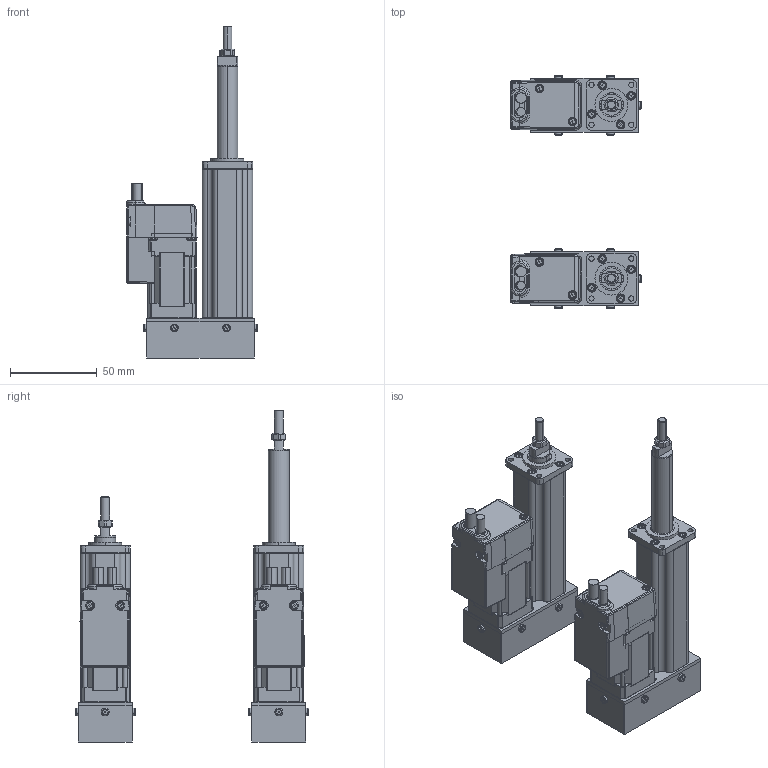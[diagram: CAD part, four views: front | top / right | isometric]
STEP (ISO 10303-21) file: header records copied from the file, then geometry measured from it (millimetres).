
FILE_DESCRIPTION(('FreeCAD Model'),'2;1');
FILE_NAME('Open CASCADE Shape Model','2023-11-27T16:23:04',('Author'),( ''),'Open CASCADE STEP processor 7.5','FreeCAD','Unknown');
FILE_SCHEMA(('AUTOMOTIVE_DESIGN { 1 0 10303 214 1 1 1 1 }'));
Length unit declared in the file: millimetre
Products named in the file (91): Unnamed; 1; 1001; 2; 3; 1002; 10; 14; 6; 19; 15; 1003; 3001; 16; 12; 2001; 5; 11; 13; 9; 20; 21; 17; 18; 11001; 11002; 11003; 11004; 11005; 11006; 11007; 4; 11008; 11009; 11010; 5001; 6001; 11011; 11012; 11013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
Assembly tree (90 placements, depth 2):
  Unnamed
    1
    1001
    2
    3
    1002
    10
    14
    6
    19
    15
    1003
    3001
    16
    12
    2001
    5
    11
    13
    9
    20
    21
    17
    18
    11001
    11002
    11003
    11004
    11005
    11006
    11007
    4
    11008
    11009
    11010
    5001
    6001
    11011
    11012
    11013
    11014
    7
    8
    2002
    9001
    11015
    10004
    11016
    11017
    12001
    12002
    10005
    14001
    6002
    19001
    15001
    19002
    3002
    16001
    12003
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Bounding box: 75.2 x 134.4 x 191.2 mm (x, y, z)
Volume: 207090.9 mm3; surface area: 143469.6 mm2
Topology: 90 solids, 90 shells, 3472 faces, 8676 edges, 5358 vertices
Faces by surface type: plane 1564, cylinder 1294, bspline 222, torus 172, sphere 116, cone 104
Entity records: 278755 total; most frequent: CARTESIAN_POINT 105421, DIRECTION 32206, LINE 17972, VECTOR 17972, ORIENTED_EDGE 17152, PCURVE 17152, DEFINITIONAL_REPRESENTATION 17152, EDGE_CURVE 8576
